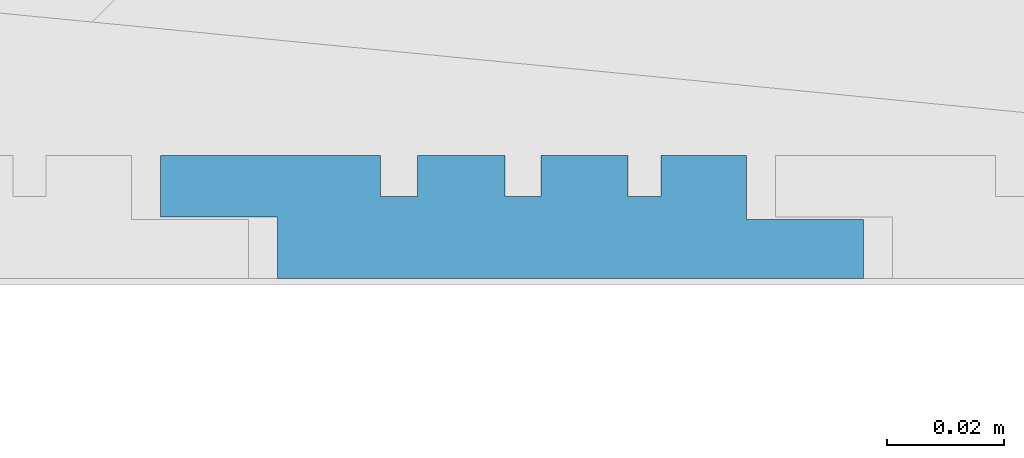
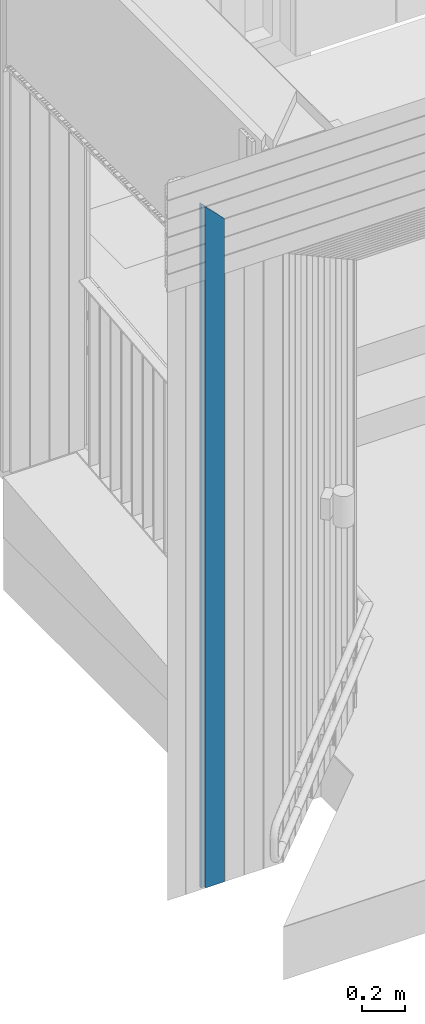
# One storey, part 98 of 418: 1 building element part, 1 element without a shape of its own.
"""IFC2X3 building model written with IfcOpenShell, lengths in millimetres."""

from ifc_helpers import new_model, entity, si_unit, converted_unit, derived_unit, money_unit, direction, frame, origin_with_axes, place, context, subcontext, project, spatial, polyline, outline, extrude, boolean, faceted_brep, material, type_object, element, aggregate, save


model = new_model("IFC2X3")

# Units and contexts
model_context = context("Model", 3, precision=0.01, world=origin_with_axes(), true_north=direction((0.0, 1.0)))
body_context = subcontext(model_context, "Body", "Model", "MODEL_VIEW")
ifc_project = project(units=[si_unit("LENGTHUNIT", "METRE", prefix="MILLI"), si_unit("AREAUNIT", "SQUARE_METRE"), si_unit("VOLUMEUNIT", "CUBIC_METRE"), converted_unit("PLANEANGLEUNIT", "DEGREE", entity("IfcPlaneAngleMeasure", 0.0174532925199), si_unit("PLANEANGLEUNIT", "RADIAN"), dimensions=[0, 0, 0, 0, 0, 0, 0]), si_unit("SOLIDANGLEUNIT", "STERADIAN"), money_unit("EUR"), converted_unit("TIMEUNIT", "Year", entity("IfcTimeMeasure", 31556926.0), si_unit("TIMEUNIT", "SECOND"), dimensions=[0, 0, 1, 0, 0, 0, 0]), si_unit("MASSUNIT", "GRAM", prefix="KILO"), si_unit("THERMODYNAMICTEMPERATUREUNIT", "DEGREE_CELSIUS"), si_unit("LUMINOUSINTENSITYUNIT", "LUMEN"), si_unit("ENERGYUNIT", "JOULE", prefix="MEGA"), derived_unit("THERMALCONDUCTANCEUNIT", [(si_unit("POWERUNIT", "WATT"), 1), (si_unit("LENGTHUNIT", "METRE"), -1), (si_unit("THERMODYNAMICTEMPERATUREUNIT", "KELVIN"), -1)]), derived_unit("SPECIFICHEATCAPACITYUNIT", [(si_unit("ENERGYUNIT", "JOULE"), 1), (si_unit("MASSUNIT", "GRAM", prefix="KILO"), -1), (si_unit("THERMODYNAMICTEMPERATUREUNIT", "KELVIN"), -1)]), derived_unit("MASSDENSITYUNIT", [(si_unit("MASSUNIT", "GRAM", prefix="KILO"), 1), (si_unit("VOLUMEUNIT", "CUBIC_METRE"), -1)])], contexts=[model_context])

# Site, building, storey
site_placement = place(None, origin_with_axes())
site = spatial("IfcSite", under=ifc_project, at=site_placement, Name="Paldiski mnt 245/1, Tallinn, Harjumaa", CompositionType="COMPLEX")
building_placement = place(site_placement, origin_with_axes())
building = spatial("IfcBuilding", under=site, at=building_placement, Name="RKAS Hoone üldnimetus (kasutust iseloomustav) -> IFC Project Manager -> SOLIBRI", CompositionType="ELEMENT")
storey_placement = place(building_placement, origin_with_axes())
storey = spatial("IfcBuildingStorey", under=building, at=storey_placement, Name="Esimene korrus", CompositionType="ELEMENT", Elevation=0.0)

# Proxy, building element part
building_element_proxy_type = type_object("IfcBuildingElementProxyType", Name="Laudis esiprofiil_01 21 x 622", PredefinedType="NOTDEFINED")
proxy_placement = place(storey_placement, frame((-45641.4622152, -18705.5141429, 0.0), z_axis=(0.0, 0.0, 1.0), x_axis=(0.0, 1.0, 0.0)))
proxy = element("IfcBuildingElementProxy", 1, at=proxy_placement, inside=storey, type_object=building_element_proxy_type, Name="Varikatus")
ifc_material = material(Name="Laudis 5072 Honka 45 horisontaalne raastas")
building_element_part_placement = place(proxy_placement, origin_with_axes())
building_element_part = element("IfcBuildingElementPart", 2, at=building_element_part_placement, material=ifc_material, Name="Laudis 5072 Honka 45 horisontaalne raastas", context=body_context, shape_type="CSG", body=[
    boolean("DIFFERENCE", boolean("DIFFERENCE", boolean("DIFFERENCE", boolean("DIFFERENCE", boolean("DIFFERENCE", boolean("DIFFERENCE", extrude(outline(polyline([(3.20348192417e-08, -205.971430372), (-10.5000010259, -205.971430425), (-10.5000005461, -185.971429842), (-20.9999998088, -185.971430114), (-21.0000010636, -223.497524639), (-14.0000005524, -223.497525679), (-14.0000003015, -229.860022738), (-20.99999981, -229.860022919), (-20.9999998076, -244.79914009), (-14.0000002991, -244.799139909), (-14.0000007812, -250.926080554), (-21.0000002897, -250.926080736), (-21.0000013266, -265.754573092), (-14.0000008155, -265.754574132), (-14.0000015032, -271.395242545), (-21.0000010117, -271.395242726), (-21.0000007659, -285.971429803), (-10.000001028, -285.971430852), (-10.0000002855, -305.971430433), (-7.63172636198e-07, -305.971430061), (3.20348192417e-08, -205.971430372)])), frame((0.0, 0.0, 0.0), z_axis=(0.0, 0.0, -1.0), x_axis=(-1.0, 0.0, 0.0)), (0.0, 0.0, -1.0), 4086.15997799), faceted_brep([(7.63172636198e-07, -515.971430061, 3569.02857112), (10.0000002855, -515.971430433, 3569.02857075), (10.0000002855, -515.971430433, 4086.15997799), (7.63172636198e-07, -515.971430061, 4086.15997799), (10.000001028, -495.971430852, 3589.02857033), (-3.20348192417e-08, -415.971430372, 3669.02857081), (10.5000010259, -415.971430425, 3669.02857076), (10.5000005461, -395.971429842, 3689.02857134), (20.9999998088, -395.971430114, 3689.02857107), (21.0000010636, -433.497524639, 3651.50247655), (14.0000005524, -433.497525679, 3651.50247551), (14.0000003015, -439.860022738, 3645.13997845), (20.99999981, -439.860022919, 3645.13997827), (20.9999998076, -454.79914009, 3630.20086109), (14.0000002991, -454.799139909, 3630.20086128), (14.0000007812, -460.926080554, 3624.07392063), (21.0000002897, -460.926080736, 3624.07392045), (21.0000013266, -475.754573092, 3609.24542809), (14.0000008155, -475.754574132, 3609.24542705), (14.0000015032, -481.395242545, 3603.60475864), (21.0000010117, -481.395242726, 3603.60475846), (21.0000007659, -495.971429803, 3589.02857138), (10.000001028, -495.971430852, 4086.15997799), (10.5000010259, -415.971430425, 4086.15997799), (-3.20348192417e-08, -415.971430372, 4086.15997799), (21.0000007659, -495.971429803, 4086.15997799), (21.0000010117, -481.395242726, 4086.15997799), (14.0000015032, -481.395242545, 4086.15997799), (14.0000008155, -475.754574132, 4086.15997799), (21.0000013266, -475.754573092, 4086.15997799), (21.0000002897, -460.926080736, 4086.15997799), (14.0000007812, -460.926080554, 4086.15997799), (14.0000002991, -454.799139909, 4086.15997799), (20.9999998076, -454.79914009, 4086.15997799), (20.99999981, -439.860022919, 4086.15997799), (14.0000003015, -439.860022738, 4086.15997799), (14.0000005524, -433.497525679, 4086.15997799), (21.0000010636, -433.497524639, 4086.15997799), (20.9999998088, -395.971430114, 4086.15997799), (10.5000005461, -395.971429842, 4086.15997799)], [[[0, 1, 2, 3]], [[4, 1, 0, 5, 6, 7, 8, 9, 10, 11, 12, 13, 14, 15, 16, 17, 18, 19, 20, 21]], [[1, 4, 22, 2]], [[23, 24, 3, 2, 22, 25, 26, 27, 28, 29, 30, 31, 32, 33, 34, 35, 36, 37, 38, 39]], [[5, 0, 3, 24]], [[6, 5, 24, 23]], [[7, 6, 23, 39]], [[8, 7, 39, 38]], [[9, 8, 38, 37]], [[10, 9, 37, 36]], [[11, 10, 36, 35]], [[12, 11, 35, 34]], [[13, 12, 34, 33]], [[14, 13, 33, 32]], [[15, 14, 32, 31]], [[16, 15, 31, 30]], [[17, 16, 30, 29]], [[18, 17, 29, 28]], [[19, 18, 28, 27]], [[20, 19, 27, 26]], [[21, 20, 26, 25]], [[4, 21, 25, 22]]])), faceted_brep([(7.63172636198e-07, -620.971430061, 3464.02857112), (10.0000002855, -620.971430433, 3464.02857075), (10.0000002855, -620.971430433, 4086.15997799), (7.63172636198e-07, -620.971430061, 4086.15997799), (10.000001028, -600.971430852, 3484.02857033), (-3.20348192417e-08, -520.971430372, 3564.02857081), (10.5000010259, -520.971430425, 3564.02857076), (10.5000005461, -500.971429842, 3584.02857134), (20.9999998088, -500.971430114, 3584.02857107), (21.0000010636, -538.497524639, 3546.50247655), (14.0000005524, -538.497525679, 3546.50247551), (14.0000003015, -544.860022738, 3540.13997845), (20.99999981, -544.860022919, 3540.13997827), (20.9999998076, -559.79914009, 3525.20086109), (14.0000002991, -559.799139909, 3525.20086128), (14.0000007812, -565.926080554, 3519.07392063), (21.0000002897, -565.926080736, 3519.07392045), (21.0000013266, -580.754573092, 3504.24542809), (14.0000008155, -580.754574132, 3504.24542705), (14.0000015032, -586.395242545, 3498.60475864), (21.0000010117, -586.395242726, 3498.60475846), (21.0000007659, -600.971429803, 3484.02857138), (10.000001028, -600.971430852, 4086.15997799), (10.5000010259, -520.971430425, 4086.15997799), (-3.20348192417e-08, -520.971430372, 4086.15997799), (21.0000007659, -600.971429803, 4086.15997799), (21.0000010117, -586.395242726, 4086.15997799), (14.0000015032, -586.395242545, 4086.15997799), (14.0000008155, -580.754574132, 4086.15997799), (21.0000013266, -580.754573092, 4086.15997799), (21.0000002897, -565.926080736, 4086.15997799), (14.0000007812, -565.926080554, 4086.15997799), (14.0000002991, -559.799139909, 4086.15997799), (20.9999998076, -559.79914009, 4086.15997799), (20.99999981, -544.860022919, 4086.15997799), (14.0000003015, -544.860022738, 4086.15997799), (14.0000005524, -538.497525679, 4086.15997799), (21.0000010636, -538.497524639, 4086.15997799), (20.9999998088, -500.971430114, 4086.15997799), (10.5000005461, -500.971429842, 4086.15997799)], [[[0, 1, 2, 3]], [[4, 1, 0, 5, 6, 7, 8, 9, 10, 11, 12, 13, 14, 15, 16, 17, 18, 19, 20, 21]], [[1, 4, 22, 2]], [[23, 24, 3, 2, 22, 25, 26, 27, 28, 29, 30, 31, 32, 33, 34, 35, 36, 37, 38, 39]], [[5, 0, 3, 24]], [[6, 5, 24, 23]], [[7, 6, 23, 39]], [[8, 7, 39, 38]], [[9, 8, 38, 37]], [[10, 9, 37, 36]], [[11, 10, 36, 35]], [[12, 11, 35, 34]], [[13, 12, 34, 33]], [[14, 13, 33, 32]], [[15, 14, 32, 31]], [[16, 15, 31, 30]], [[17, 16, 30, 29]], [[18, 17, 29, 28]], [[19, 18, 28, 27]], [[20, 19, 27, 26]], [[21, 20, 26, 25]], [[4, 21, 25, 22]]])), faceted_brep([(7.63172636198e-07, -305.971430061, 3779.02857112), (10.0000002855, -305.971430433, 3779.02857075), (10.0000002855, -305.971430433, 4086.15997799), (7.63172636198e-07, -305.971430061, 4086.15997799), (10.000001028, -285.971430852, 3799.02857033), (-3.20348192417e-08, -205.971430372, 3879.02857081), (10.5000010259, -205.971430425, 3879.02857076), (10.5000005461, -185.971429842, 3899.02857134), (20.9999998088, -185.971430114, 3899.02857107), (21.0000010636, -223.497524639, 3861.50247655), (14.0000005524, -223.497525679, 3861.50247551), (14.0000003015, -229.860022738, 3855.13997845), (20.99999981, -229.860022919, 3855.13997827), (20.9999998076, -244.79914009, 3840.20086109), (14.0000002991, -244.799139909, 3840.20086128), (14.0000007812, -250.926080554, 3834.07392063), (21.0000002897, -250.926080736, 3834.07392045), (21.0000013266, -265.754573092, 3819.24542809), (14.0000008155, -265.754574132, 3819.24542705), (14.0000015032, -271.395242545, 3813.60475864), (21.0000010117, -271.395242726, 3813.60475846), (21.0000007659, -285.971429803, 3799.02857138), (10.000001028, -285.971430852, 4086.15997799), (10.5000010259, -205.971430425, 4086.15997799), (-3.20348192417e-08, -205.971430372, 4086.15997799), (21.0000007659, -285.971429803, 4086.15997799), (21.0000010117, -271.395242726, 4086.15997799), (14.0000015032, -271.395242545, 4086.15997799), (14.0000008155, -265.754574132, 4086.15997799), (21.0000013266, -265.754573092, 4086.15997799), (21.0000002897, -250.926080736, 4086.15997799), (14.0000007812, -250.926080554, 4086.15997799), (14.0000002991, -244.799139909, 4086.15997799), (20.9999998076, -244.79914009, 4086.15997799), (20.99999981, -229.860022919, 4086.15997799), (14.0000003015, -229.860022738, 4086.15997799), (14.0000005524, -223.497525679, 4086.15997799), (21.0000010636, -223.497524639, 4086.15997799), (20.9999998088, -185.971430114, 4086.15997799), (10.5000005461, -185.971429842, 4086.15997799)], [[[0, 1, 2, 3]], [[4, 1, 0, 5, 6, 7, 8, 9, 10, 11, 12, 13, 14, 15, 16, 17, 18, 19, 20, 21]], [[1, 4, 22, 2]], [[23, 24, 3, 2, 22, 25, 26, 27, 28, 29, 30, 31, 32, 33, 34, 35, 36, 37, 38, 39]], [[5, 0, 3, 24]], [[6, 5, 24, 23]], [[7, 6, 23, 39]], [[8, 7, 39, 38]], [[9, 8, 38, 37]], [[10, 9, 37, 36]], [[11, 10, 36, 35]], [[12, 11, 35, 34]], [[13, 12, 34, 33]], [[14, 13, 33, 32]], [[15, 14, 32, 31]], [[16, 15, 31, 30]], [[17, 16, 30, 29]], [[18, 17, 29, 28]], [[19, 18, 28, 27]], [[20, 19, 27, 26]], [[21, 20, 26, 25]], [[4, 21, 25, 22]]])), faceted_brep([(7.63172636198e-07, -410.971430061, 3674.02857112), (10.0000002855, -410.971430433, 3674.02857075), (10.0000002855, -410.971430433, 4086.15997799), (7.63172636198e-07, -410.971430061, 4086.15997799), (10.000001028, -390.971430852, 3694.02857033), (-3.20348192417e-08, -310.971430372, 3774.02857081), (10.5000010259, -310.971430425, 3774.02857076), (10.5000005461, -290.971429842, 3794.02857134), (20.9999998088, -290.971430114, 3794.02857107), (21.0000010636, -328.497524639, 3756.50247655), (14.0000005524, -328.497525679, 3756.50247551), (14.0000003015, -334.860022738, 3750.13997845), (20.99999981, -334.860022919, 3750.13997827), (20.9999998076, -349.79914009, 3735.20086109), (14.0000002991, -349.799139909, 3735.20086128), (14.0000007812, -355.926080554, 3729.07392063), (21.0000002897, -355.926080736, 3729.07392045), (21.0000013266, -370.754573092, 3714.24542809), (14.0000008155, -370.754574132, 3714.24542705), (14.0000015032, -376.395242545, 3708.60475864), (21.0000010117, -376.395242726, 3708.60475846), (21.0000007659, -390.971429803, 3694.02857138), (10.000001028, -390.971430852, 4086.15997799), (10.5000010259, -310.971430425, 4086.15997799), (-3.20348192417e-08, -310.971430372, 4086.15997799), (21.0000007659, -390.971429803, 4086.15997799), (21.0000010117, -376.395242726, 4086.15997799), (14.0000015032, -376.395242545, 4086.15997799), (14.0000008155, -370.754574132, 4086.15997799), (21.0000013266, -370.754573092, 4086.15997799), (21.0000002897, -355.926080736, 4086.15997799), (14.0000007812, -355.926080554, 4086.15997799), (14.0000002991, -349.799139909, 4086.15997799), (20.9999998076, -349.79914009, 4086.15997799), (20.99999981, -334.860022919, 4086.15997799), (14.0000003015, -334.860022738, 4086.15997799), (14.0000005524, -328.497525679, 4086.15997799), (21.0000010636, -328.497524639, 4086.15997799), (20.9999998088, -290.971430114, 4086.15997799), (10.5000005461, -290.971429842, 4086.15997799)], [[[0, 1, 2, 3]], [[4, 1, 0, 5, 6, 7, 8, 9, 10, 11, 12, 13, 14, 15, 16, 17, 18, 19, 20, 21]], [[1, 4, 22, 2]], [[23, 24, 3, 2, 22, 25, 26, 27, 28, 29, 30, 31, 32, 33, 34, 35, 36, 37, 38, 39]], [[5, 0, 3, 24]], [[6, 5, 24, 23]], [[7, 6, 23, 39]], [[8, 7, 39, 38]], [[9, 8, 38, 37]], [[10, 9, 37, 36]], [[11, 10, 36, 35]], [[12, 11, 35, 34]], [[13, 12, 34, 33]], [[14, 13, 33, 32]], [[15, 14, 32, 31]], [[16, 15, 31, 30]], [[17, 16, 30, 29]], [[18, 17, 29, 28]], [[19, 18, 28, 27]], [[20, 19, 27, 26]], [[21, 20, 26, 25]], [[4, 21, 25, 22]]])), faceted_brep([(1.4387921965e-06, -95.9714304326, 3989.02857075), (10.0000000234, -95.9714304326, 3989.02857075), (10.0000000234, -95.9714304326, 4086.15997799), (1.4387921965e-06, -95.9714304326, 4086.15997799), (10.0000014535, -75.9714304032, 4009.02857078), (-8.28137558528e-09, 1.13997680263, 4086.13997799), (14.0000008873, -12.860024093, 4072.13997709), (14.0000008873, -19.8600231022, 4065.13997808), (20.9999998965, -19.8600231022, 4065.13997808), (20.9999998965, -34.7991407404, 4050.20086044), (14.0000008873, -34.7991393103, 4050.20086187), (14.0000008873, -40.9260801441, 4044.07392104), (20.9999998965, -40.9260801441, 4044.07392104), (21.0000013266, -55.7545733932, 4029.24542779), (14.0000008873, -55.7545748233, 4029.24542636), (14.0000008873, -61.3952431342, 4023.60475805), (21.0000013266, -61.3952431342, 4023.60475805), (21.0000013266, -75.9714304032, 4009.02857078), (10.0000014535, -75.9714304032, 4086.15997799), (14.0000008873, -55.7545748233, 4086.15997799), (21.0000013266, -55.7545733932, 4086.15997799), (20.9999998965, -40.9260801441, 4086.15997799), (14.0000008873, -40.9260801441, 4086.15997799), (14.0000008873, -34.7991393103, 4086.15997799), (20.9999998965, -34.7991407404, 4086.15997799), (20.9999998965, -19.8600231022, 4086.15997799), (14.0000008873, -19.8600231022, 4086.15997799), (14.0000008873, -12.860024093, 4086.15997799), (-8.28137558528e-09, 1.13997680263, 4086.15997799), (21.0000013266, -75.9714304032, 4086.15997799), (21.0000013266, -61.3952431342, 4086.15997799), (14.0000008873, -61.3952431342, 4086.15997799)], [[[0, 1, 2, 3]], [[4, 1, 0, 5, 6, 7, 8, 9, 10, 11, 12, 13, 14, 15, 16, 17]], [[1, 4, 18, 2]], [[19, 20, 21, 22, 23, 24, 25, 26, 27, 28, 3, 2, 18, 29, 30, 31]], [[5, 0, 3, 28]], [[6, 5, 28, 27]], [[7, 6, 27, 26]], [[8, 7, 26, 25]], [[9, 8, 25, 24]], [[10, 9, 24, 23]], [[11, 10, 23, 22]], [[12, 11, 22, 21]], [[13, 12, 21, 20]], [[14, 13, 20, 19]], [[15, 14, 19, 31]], [[16, 15, 31, 30]], [[17, 16, 30, 29]], [[4, 17, 29, 18]]])), faceted_brep([(7.63172636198e-07, -200.971430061, 3884.02857112), (10.0000002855, -200.971430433, 3884.02857075), (10.0000002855, -200.971430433, 4086.15997799), (7.63172636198e-07, -200.971430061, 4086.15997799), (10.000001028, -180.971430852, 3904.02857033), (-3.20348192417e-08, -100.971430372, 3984.02857081), (10.5000010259, -100.971430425, 3984.02857076), (10.5000005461, -80.9714298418, 4004.02857134), (20.9999998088, -80.9714301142, 4004.02857107), (21.0000010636, -118.497524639, 3966.50247655), (14.0000005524, -118.497525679, 3966.50247551), (14.0000003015, -124.860022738, 3960.13997845), (20.99999981, -124.860022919, 3960.13997827), (20.9999998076, -139.79914009, 3945.20086109), (14.0000002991, -139.799139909, 3945.20086128), (14.0000007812, -145.926080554, 3939.07392063), (21.0000002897, -145.926080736, 3939.07392045), (21.0000013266, -160.754573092, 3924.24542809), (14.0000008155, -160.754574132, 3924.24542705), (14.0000015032, -166.395242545, 3918.60475864), (21.0000010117, -166.395242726, 3918.60475846), (21.0000007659, -180.971429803, 3904.02857138), (10.000001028, -180.971430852, 4086.15997799), (10.5000010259, -100.971430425, 4086.15997799), (-3.20348192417e-08, -100.971430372, 4086.15997799), (21.0000007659, -180.971429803, 4086.15997799), (21.0000010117, -166.395242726, 4086.15997799), (14.0000015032, -166.395242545, 4086.15997799), (14.0000008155, -160.754574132, 4086.15997799), (21.0000013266, -160.754573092, 4086.15997799), (21.0000002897, -145.926080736, 4086.15997799), (14.0000007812, -145.926080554, 4086.15997799), (14.0000002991, -139.799139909, 4086.15997799), (20.9999998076, -139.79914009, 4086.15997799), (20.99999981, -124.860022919, 4086.15997799), (14.0000003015, -124.860022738, 4086.15997799), (14.0000005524, -118.497525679, 4086.15997799), (21.0000010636, -118.497524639, 4086.15997799), (20.9999998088, -80.9714301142, 4086.15997799), (10.5000005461, -80.9714298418, 4086.15997799)], [[[0, 1, 2, 3]], [[4, 1, 0, 5, 6, 7, 8, 9, 10, 11, 12, 13, 14, 15, 16, 17, 18, 19, 20, 21]], [[1, 4, 22, 2]], [[23, 24, 3, 2, 22, 25, 26, 27, 28, 29, 30, 31, 32, 33, 34, 35, 36, 37, 38, 39]], [[5, 0, 3, 24]], [[6, 5, 24, 23]], [[7, 6, 23, 39]], [[8, 7, 39, 38]], [[9, 8, 38, 37]], [[10, 9, 37, 36]], [[11, 10, 36, 35]], [[12, 11, 35, 34]], [[13, 12, 34, 33]], [[14, 13, 33, 32]], [[15, 14, 32, 31]], [[16, 15, 31, 30]], [[17, 16, 30, 29]], [[18, 17, 29, 28]], [[19, 18, 28, 27]], [[20, 19, 27, 26]], [[21, 20, 26, 25]], [[4, 21, 25, 22]]])),
])
aggregate(proxy, [building_element_part])

save(model, "model.ifc")
